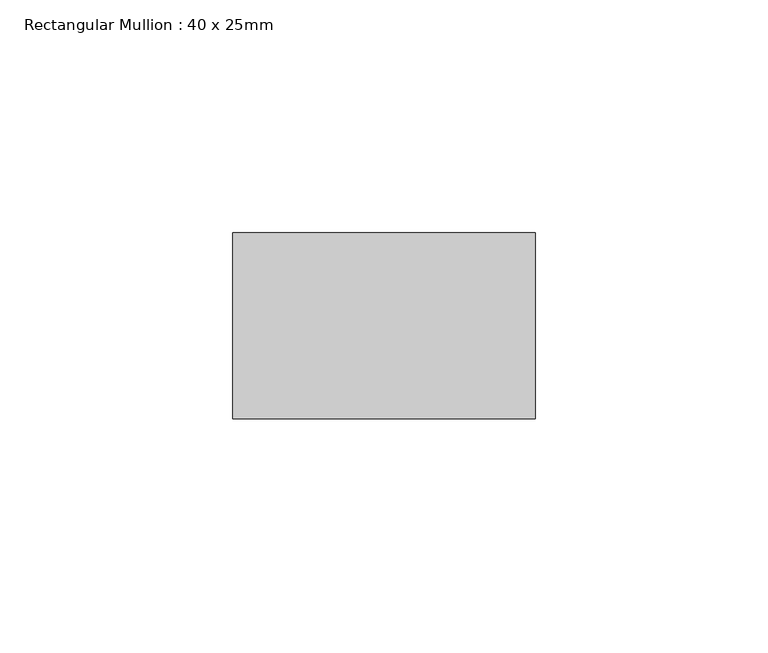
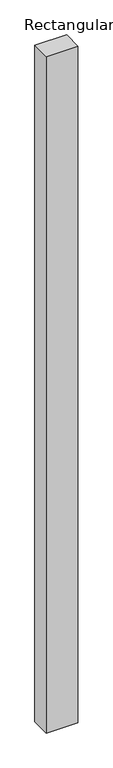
"""IFC4 building model written with IfcOpenShell, lengths in millimetres: member geometry, Rectangular Mullion : 40 x 25mm."""

from ifc_helpers import new_model, si_unit, frame, origin, place, context, project, spatial, polyline, outline, extrude, source, transform, mapped, element, save


def rectangular_mullion_40_x_25mm_973ccd23(model_context):
    return source(origin(), model_context, "Body", "SweptSolid", [
        extrude(outline(polyline([(0.0, -20.0), (0.0, -60.0), (-65.0, -60.0), (-65.0, -20.0), (0.0, -20.0)])), frame((0.0, 0.0, -1465.0), z_axis=(0.0, 0.0, 1.0), x_axis=(1.0, 0.0, 0.0)), (0.0, 0.0, 1.0), 1465.0),
    ])


if __name__ == "__main__":
    model = new_model("IFC4")
    model_context = context("Model", 3, world=origin())
    ifc_project = project(units=[si_unit("LENGTHUNIT", "METRE", prefix="MILLI")], contexts=[model_context])
    site = spatial("IfcSite", under=ifc_project)
    building = spatial("IfcBuilding", under=site)
    placement = place(None, origin())
    rectangular_mullion_40_x_25mm_shape = rectangular_mullion_40_x_25mm_973ccd23(model_context)
    element("IfcMember", 1, ObjectType="Rectangular Mullion : 40 x 25mm", at=placement, inside=building, context=model_context, shape_type="MappedRepresentation", body=[
        mapped(rectangular_mullion_40_x_25mm_shape, transform((0.0, 0.0, 0.0), x_axis=(1.0, 0.0, 0.0), y_axis=(0.0, 1.0, 0.0), z_axis=(0.0, 0.0, 1.0))),
    ])
    save(model, "model.ifc")
